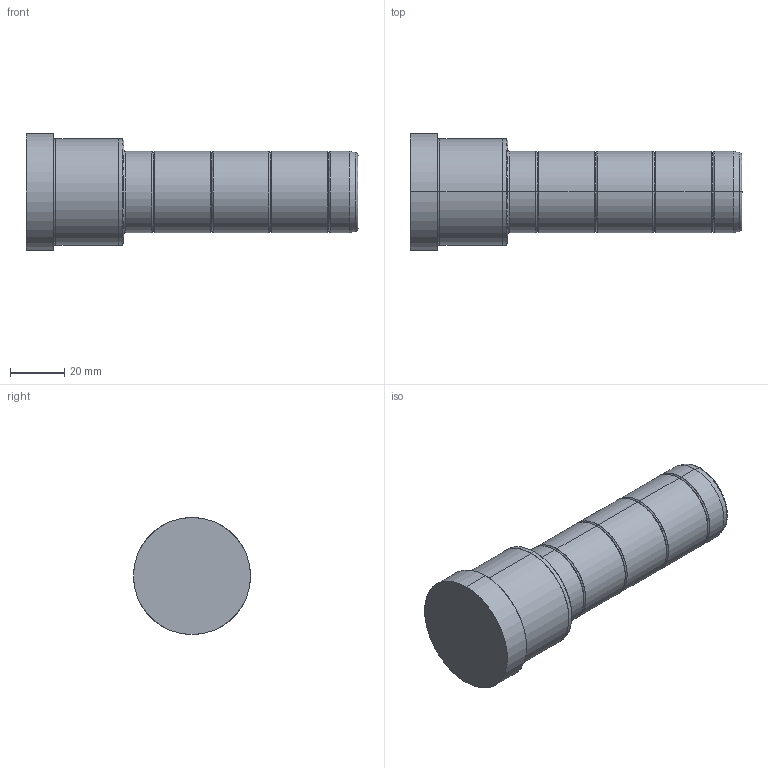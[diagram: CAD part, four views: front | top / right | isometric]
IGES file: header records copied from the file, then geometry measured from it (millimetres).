
Start section: SolidWorks IGES file using analytic representation for surfaces
Global section: file name: C:\Documents and Settings\kalite-mail\Desktop\IGS\D02\30\D02 - 30x36x86.IGS; native system: SolidWorks 2008; preprocessor: SolidWorks 2008; author: kalite-mail; date: 080617.090051; units: millimetre
Bounding box: 122 x 43 x 43 mm (x, y, z)
Surface area: 15604.4 mm2 (no closed solid volume)
Topology: 0 solids, 0 shells, 48 faces, 776 edges, 776 vertices
Faces by surface type: bspline 26, revolution 22
